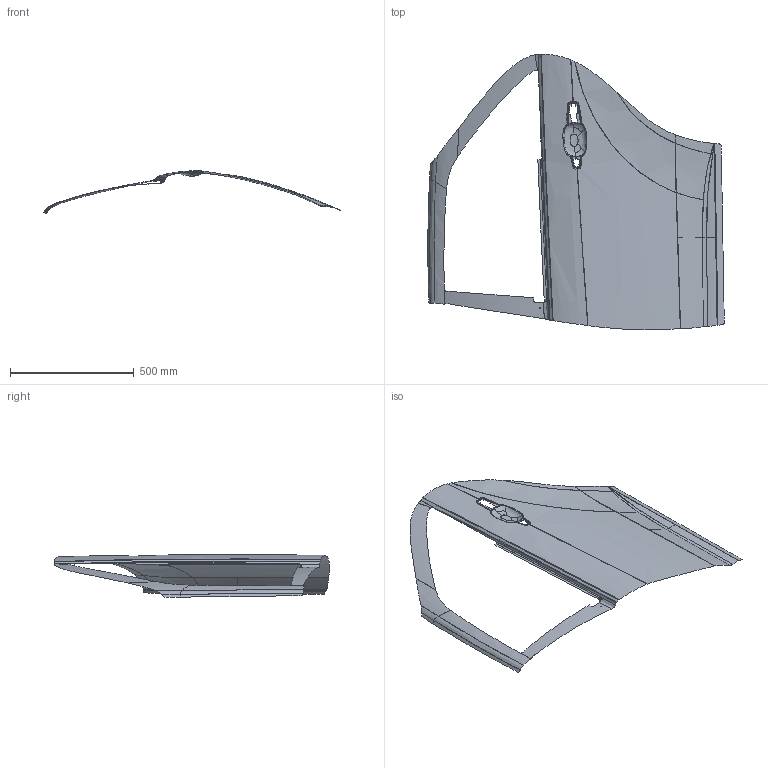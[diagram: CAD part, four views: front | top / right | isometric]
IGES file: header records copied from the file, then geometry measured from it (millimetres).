
Start section: START IGES DATA FILE
Global section: file name: door_outer.igs; native system: DYNAFORM VER.3.1,DYNAFORM IGES TRANSLATOR, ENGINEERING TECHNOLOGY ASSOCIATES, INC.; preprocessor: 980406; date: 040609.153217; units: millimetre
Bounding box: 1198.19 x 1113.49 x 172.08 mm (x, y, z)
Surface area: 813115.5 mm2 (no closed solid volume)
Topology: 0 solids, 0 shells, 91 faces, 1226 edges, 1225 vertices
Faces by surface type: bspline 91
